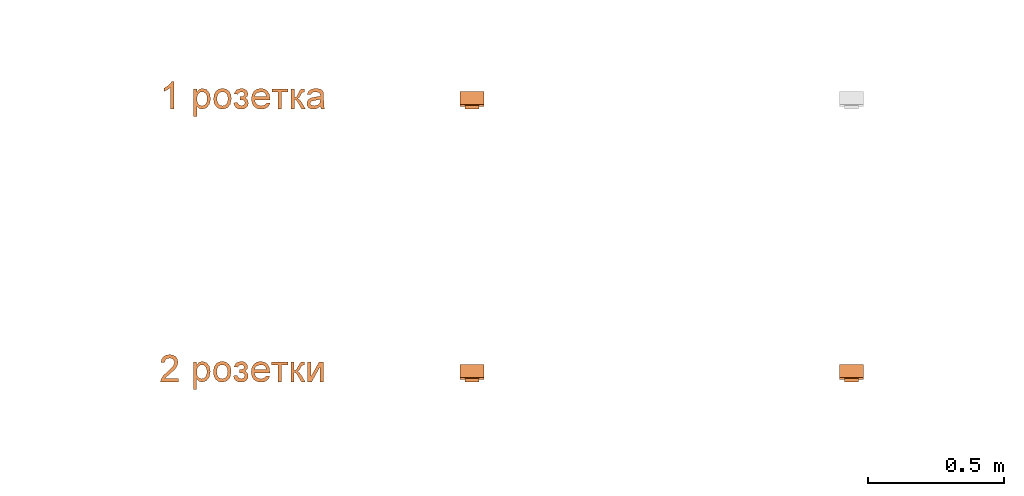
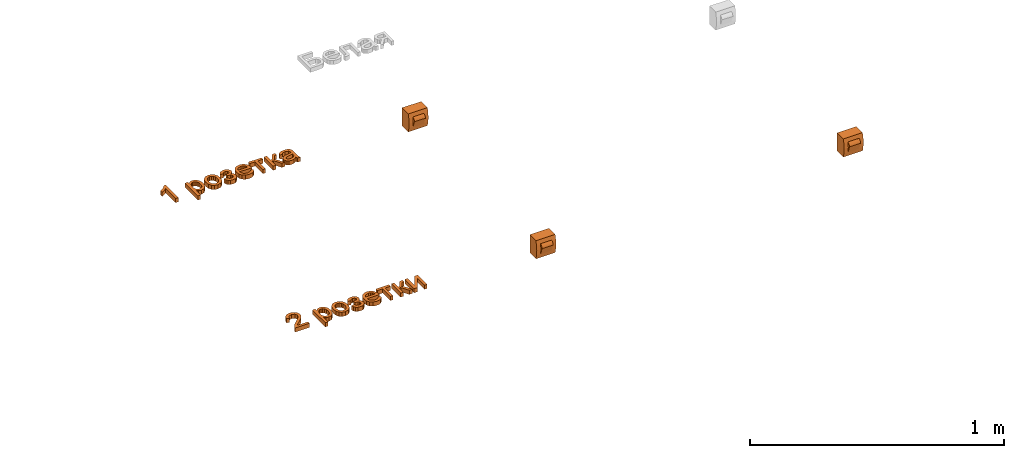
# One storey, part 64 of 87: 5 proxies.
"""IFC2X3 building model written with IfcOpenShell, lengths in millimetres."""

from ifc_helpers import new_model, entity, si_unit, converted_unit, derived_unit, direction, frame, frame_2d, origin, place, context, subcontext, project, spatial, polyline, circle_curve, parameter, trimmed, segment, composite_curve, outline, extrude, source, transform, mapped, material, type_object, type_shapes, element, save


model = new_model("IFC2X3")

# Units and contexts
model_context = context("Model", 3, precision=0.01, world=origin(), true_north=direction((6.12303176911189e-17, 1.0)))
body_context = subcontext(model_context, "Body", "Model", "MODEL_VIEW")
ifc_project = project(units=[si_unit("LENGTHUNIT", "METRE", prefix="MILLI"), si_unit("AREAUNIT", "SQUARE_METRE"), si_unit("VOLUMEUNIT", "CUBIC_METRE"), converted_unit("PLANEANGLEUNIT", "DEGREE", entity("IfcRatioMeasure", 0.0174532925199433), si_unit("PLANEANGLEUNIT", "RADIAN"), dimensions=[0, 0, 0, 0, 0, 0, 0]), si_unit("MASSUNIT", "GRAM", prefix="KILO"), derived_unit("MASSDENSITYUNIT", [(si_unit("MASSUNIT", "GRAM", prefix="KILO"), 1), (si_unit("LENGTHUNIT", "METRE"), -3)]), si_unit("TIMEUNIT", "SECOND"), si_unit("FREQUENCYUNIT", "HERTZ"), si_unit("THERMODYNAMICTEMPERATUREUNIT", "DEGREE_CELSIUS"), derived_unit("THERMALTRANSMITTANCEUNIT", [(si_unit("MASSUNIT", "GRAM", prefix="KILO"), 1), (si_unit("THERMODYNAMICTEMPERATUREUNIT", "KELVIN"), -1), (si_unit("TIMEUNIT", "SECOND"), -3)]), derived_unit("VOLUMETRICFLOWRATEUNIT", [(si_unit("LENGTHUNIT", "METRE"), 3), (si_unit("TIMEUNIT", "SECOND"), -1)]), si_unit("ELECTRICCURRENTUNIT", "AMPERE"), si_unit("ELECTRICVOLTAGEUNIT", "VOLT"), si_unit("POWERUNIT", "WATT"), si_unit("FORCEUNIT", "NEWTON", prefix="KILO"), si_unit("ILLUMINANCEUNIT", "LUX"), si_unit("LUMINOUSFLUXUNIT", "LUMEN"), si_unit("LUMINOUSINTENSITYUNIT", "CANDELA"), derived_unit("USERDEFINED", [(si_unit("MASSUNIT", "GRAM", prefix="KILO"), -1), (si_unit("LENGTHUNIT", "METRE"), -2), (si_unit("TIMEUNIT", "SECOND"), 3), (si_unit("LUMINOUSFLUXUNIT", "LUMEN"), 1)]), derived_unit("LINEARVELOCITYUNIT", [(si_unit("LENGTHUNIT", "METRE"), 1), (si_unit("TIMEUNIT", "SECOND"), -1)]), si_unit("PRESSUREUNIT", "PASCAL"), derived_unit("USERDEFINED", [(si_unit("LENGTHUNIT", "METRE"), -2), (si_unit("MASSUNIT", "GRAM", prefix="KILO"), 1), (si_unit("TIMEUNIT", "SECOND"), -2)])], contexts=[model_context])

# Site, building, storey
site_placement = place(None, origin())
site = spatial("IfcSite", under=ifc_project, at=site_placement, Name="Default", CompositionType="ELEMENT")
building_placement = place(site_placement, origin())
building = spatial("IfcBuilding", under=site, at=building_placement, Name="Наименование здания", CompositionType="ELEMENT")
storey_placement = place(building_placement, origin())
storey = spatial("IfcBuildingStorey", under=building, at=storey_placement, Name="Этаж 01", CompositionType="ELEMENT", Elevation=0.0)

# Proxies
ifc_material_1 = material(Name="DKC_Пластик_Коричневый")
building_element_proxy_type_1 = type_object("IfcBuildingElementProxyType", Name="Коричневая", PredefinedType="NOTDEFINED", material=ifc_material_1)
shared_shape_1 = source(origin(), body_context, "Body", "SweptSolid", [
    extrude(outline(composite_curve([segment(trimmed(circle_curve(frame_2d((6.58148347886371, 5.82942830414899), x_axis=(1.0, 0.0)), 18.452960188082), [parameter(108.397599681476)], [parameter(174.983430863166)], True, "PARAMETER"), True, "CONTINUOUS"), segment(polyline([(-11.8007917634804, 7.44302571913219), (0.75755790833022, -27.060756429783)]), True, "CONTINUOUS"), segment(polyline([(0.75755790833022, -27.060756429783), (5.1428379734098, -27.0607564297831)]), True, "CONTINUOUS"), segment(polyline([(5.1428379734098, -27.0607564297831), (5.14283797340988, 23.339243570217)]), True, "CONTINUOUS"), segment(polyline([(5.14283797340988, 23.339243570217), (0.757557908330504, 23.339243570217)]), True, "CONTINUOUS")], self_intersect=False)), frame((-25.2, -53.8992082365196, 1.86075642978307), z_axis=(1.0, 0.0, 0.0), x_axis=(0.0, 1.0, 0.0)), (0.0, 0.0, 1.0), 50.4),
    extrude(outline(composite_curve([segment(polyline([(-43.5500000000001, -24.3781851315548), (43.5500000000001, -24.3781851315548)]), True, "CONTINUOUS"), segment(polyline([(43.5500000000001, -24.3781851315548), (43.5499999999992, 24.3781851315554)]), True, "CONTINUOUS"), segment(trimmed(circle_curve(frame_2d((0.0, -117.269759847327), x_axis=(0.0, -1.0)), 148.191574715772), [parameter(162.90982899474)], [parameter(197.09017100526)], True, "PARAMETER"), True, "CONTINUOUS"), segment(polyline([(-43.5500000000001, 24.3781851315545), (-43.5500000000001, -24.3781851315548)]), True, "CONTINUOUS")], self_intersect=False)), frame((-43.85, -24.3781851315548, 0.0), z_axis=(1.0, 0.0, 0.0), x_axis=(0.0, 0.0, 1.0)), (0.0, 0.0, 1.0), 87.7),
])
type_shapes(building_element_proxy_type_1, [shared_shape_1])
proxy_1_placement = place(storey_placement, frame((61127.9064877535, -880.031651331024, 0.0)))
element("IfcBuildingElementProxy", 1, at=proxy_1_placement, inside=storey, type_object=building_element_proxy_type_1, material=ifc_material_1, Name="КНС_КоробкаВСбореСРозеткойRJ-45_ILF_DKC:Коричневая", ObjectType="Коричневая", context=body_context, shape_type="MappedRepresentation", body=[
    mapped(shared_shape_1, transform((0.0, 0.0, 0.0), scale=1.0)),
])
ifc_material_2 = material(Name="DKC_Пластик_Белый")
building_element_proxy_type_2 = type_object("IfcBuildingElementProxyType", Name="Белая", PredefinedType="NOTDEFINED", material=ifc_material_2)
shared_shape_2 = source(origin(), body_context, "Body", "SweptSolid", [
    extrude(outline(composite_curve([segment(trimmed(circle_curve(frame_2d((6.58148347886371, 5.82942830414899), x_axis=(1.0, 0.0)), 18.452960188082), [parameter(108.397599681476)], [parameter(174.983430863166)], True, "PARAMETER"), True, "CONTINUOUS"), segment(polyline([(-11.8007917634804, 7.44302571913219), (0.75755790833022, -27.060756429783)]), True, "CONTINUOUS"), segment(polyline([(0.75755790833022, -27.060756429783), (5.1428379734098, -27.0607564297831)]), True, "CONTINUOUS"), segment(polyline([(5.1428379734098, -27.0607564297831), (5.14283797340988, 23.339243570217)]), True, "CONTINUOUS"), segment(polyline([(5.14283797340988, 23.339243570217), (0.757557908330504, 23.339243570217)]), True, "CONTINUOUS")], self_intersect=False)), frame((-25.2, -53.8992082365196, 1.86075642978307), z_axis=(1.0, 0.0, 0.0), x_axis=(0.0, 1.0, 0.0)), (0.0, 0.0, 1.0), 50.4),
    extrude(outline(composite_curve([segment(polyline([(-43.5500000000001, -24.3781851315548), (43.5500000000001, -24.3781851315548)]), True, "CONTINUOUS"), segment(polyline([(43.5500000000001, -24.3781851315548), (43.5499999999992, 24.3781851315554)]), True, "CONTINUOUS"), segment(trimmed(circle_curve(frame_2d((0.0, -117.269759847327), x_axis=(0.0, -1.0)), 148.191574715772), [parameter(162.90982899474)], [parameter(197.09017100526)], True, "PARAMETER"), True, "CONTINUOUS"), segment(polyline([(-43.5500000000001, 24.3781851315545), (-43.5500000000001, -24.3781851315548)]), True, "CONTINUOUS")], self_intersect=False)), frame((-43.85, -24.3781851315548, 0.0), z_axis=(1.0, 0.0, 0.0), x_axis=(0.0, 0.0, 1.0)), (0.0, 0.0, 1.0), 87.7),
])
type_shapes(building_element_proxy_type_2, [shared_shape_2])
proxy_2_placement = place(storey_placement, frame((59727.9064877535, -880.03165133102, 0.0)))
element("IfcBuildingElementProxy", 2, at=proxy_2_placement, inside=storey, type_object=building_element_proxy_type_2, material=ifc_material_2, Name="КНС_КоробкаВСбореСРозеткойRJ-45_ILF_DKC:Белая", ObjectType="Белая", context=body_context, shape_type="MappedRepresentation", body=[
    mapped(shared_shape_2, transform((0.0, 0.0, 0.0), scale=1.0)),
])
building_element_proxy_type_3 = type_object("IfcBuildingElementProxyType", Name="Белая", PredefinedType="NOTDEFINED", material=ifc_material_2)
shared_shape_3 = source(origin(), body_context, "Body", "SweptSolid", [
    extrude(outline(composite_curve([segment(trimmed(circle_curve(frame_2d((6.58148347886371, 5.82942830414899), x_axis=(1.0, 0.0)), 18.452960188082), [parameter(108.397599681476)], [parameter(174.983430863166)], True, "PARAMETER"), True, "CONTINUOUS"), segment(polyline([(-11.8007917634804, 7.44302571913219), (0.75755790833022, -27.060756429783)]), True, "CONTINUOUS"), segment(polyline([(0.75755790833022, -27.060756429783), (5.1428379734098, -27.0607564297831)]), True, "CONTINUOUS"), segment(polyline([(5.1428379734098, -27.0607564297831), (5.14283797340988, 23.339243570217)]), True, "CONTINUOUS"), segment(polyline([(5.14283797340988, 23.339243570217), (0.757557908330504, 23.339243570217)]), True, "CONTINUOUS")], self_intersect=False)), frame((-25.2, -53.8992082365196, 1.86075642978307), z_axis=(1.0, 0.0, 0.0), x_axis=(0.0, 1.0, 0.0)), (0.0, 0.0, 1.0), 50.4),
    extrude(outline(composite_curve([segment(polyline([(-43.5500000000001, -24.3781851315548), (43.5500000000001, -24.3781851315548)]), True, "CONTINUOUS"), segment(polyline([(43.5500000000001, -24.3781851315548), (43.5499999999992, 24.3781851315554)]), True, "CONTINUOUS"), segment(trimmed(circle_curve(frame_2d((0.0, -117.269759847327), x_axis=(0.0, -1.0)), 148.191574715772), [parameter(162.90982899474)], [parameter(197.09017100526)], True, "PARAMETER"), True, "CONTINUOUS"), segment(polyline([(-43.5500000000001, 24.3781851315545), (-43.5500000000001, -24.3781851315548)]), True, "CONTINUOUS")], self_intersect=False)), frame((-43.85, -24.3781851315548, 0.0), z_axis=(1.0, 0.0, 0.0), x_axis=(0.0, 0.0, 1.0)), (0.0, 0.0, 1.0), 87.7),
])
type_shapes(building_element_proxy_type_3, [shared_shape_3])
proxy_3_placement = place(storey_placement, frame((59727.9064877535, 127.135593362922, 0.0)))
element("IfcBuildingElementProxy", 3, at=proxy_3_placement, inside=storey, type_object=building_element_proxy_type_3, material=ifc_material_2, Name="КНС_КоробкаВСбореСРозеткойRJ-45_ILF_DKC:Белая", ObjectType="Белая", context=body_context, shape_type="MappedRepresentation", body=[
    mapped(shared_shape_3, transform((0.0, 0.0, 0.0), scale=1.0)),
])
proxy_4_placement = place(storey_placement, origin())
element("IfcBuildingElementProxy", 4, at=proxy_4_placement, inside=storey, Name="Текст модели:100 мм Arial", ObjectType="Текст модели:100 мм Arial", context=body_context, shape_type="SweptSolid", body=[
    extrude(outline(polyline([(-63.8793021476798, -16.918484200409), (36.5770080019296, -16.918484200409), (36.5770080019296, -8.825080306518), (23.2106288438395, 2.34626961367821), (11.4629304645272, 20.7526321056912), (-0.40739524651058, 20.7526321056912), (5.9324378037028, 7.53340574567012), (14.4059864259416, -4.36144543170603), (-63.8793021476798, -4.36144543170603), (-63.8793021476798, -16.918484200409)])), frame((58611.1812144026, 126.433607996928, 0.0), z_axis=(0.0, 0.0, 1.0), x_axis=(0.0, 1.0, 0.0)), (0.0, 0.0, 1.0), 20.0),
    extrude(outline(polyline([(-28.8983569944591, -61.2335493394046), (-16.3413182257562, -61.2335493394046), (-16.3413182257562, -23.1700255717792), (-8.38280439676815, -31.3247431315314), (2.54329085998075, -34.5498419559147), (18.4235303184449, -29.7305878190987), (29.9259740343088, -15.8736993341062), (33.8868368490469, 4.47017499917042), (30.3796951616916, 23.8207679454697), (19.9808974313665, 37.5059781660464), (4.06386977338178, 42.36202050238), (-7.65930313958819, 38.8916670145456), (-16.3413182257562, 28.4806065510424), (-16.3413182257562, 40.7923906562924), (-28.8983569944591, 40.7923906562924), (-28.8983569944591, -61.2335493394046)]), holes=[polyline([(-16.3413182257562, 3.31747808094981), (-14.8912500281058, 14.7064915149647), (-10.5410454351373, 23.0236902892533), (-4.30851130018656, 28.1096588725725), (2.78854552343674, 29.8049817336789), (9.85801119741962, 28.2108264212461), (15.8606190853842, 23.4283604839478), (19.9625033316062, 15.4453211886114), (21.329798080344, 4.24944580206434), (19.9287808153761, -7.43080754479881), (15.7257290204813, -15.5916564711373), (9.56063991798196, -20.3925165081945), (2.27351073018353, -21.9928031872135), (-4.89712249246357, -20.447698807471), (-10.908927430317, -15.8123856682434), (-14.9832205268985, -7.93971097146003), (-16.3413182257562, 3.31747808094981)])]), frame((58729.2010285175, 95.5345179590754, 0.0)), (0.0, 0.0, 1.0), 20.0),
    extrude(outline(polyline([(-2.34029740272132, -31.698490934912), (14.273181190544, -31.698490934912), (27.1869525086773, -26.5873672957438), (35.990959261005, -17.1811275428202), (40.2751441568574, -4.2957792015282), (38.1491713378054, 13.1690451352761), (27.2514955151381, 26.6485362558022), (5.67797919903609, 33.7446283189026), (-10.1280544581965, 33.6081083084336), (-22.8059382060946, 28.3900569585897), (-31.6389568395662, 18.975453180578), (-35.9103951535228, 6.24927588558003), (-35.5406401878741, -5.9710903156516), (-30.8535887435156, -16.7835237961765), (-19.5870121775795, -26.5692340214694), (-2.34029740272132, -31.698490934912)]), holes=[polyline([(-0.642949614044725, -19.2566729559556), (-11.6948097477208, -16.259966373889), (-19.0989004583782, -10.8341828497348), (-22.9822632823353, -3.67356758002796), (-23.4719397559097, 4.52763423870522), (-20.7783225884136, 12.2046648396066), (-15.0781786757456, 18.0357050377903), (-6.5660093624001, 21.2863283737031), (4.56368400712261, 21.2221083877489), (15.8675929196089, 18.1905150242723), (23.3961896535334, 12.7474982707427), (27.3267847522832, 5.5927250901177), (27.8366887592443, -2.57413755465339), (25.1317228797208, -10.3331599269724), (19.4311586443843, -16.1672368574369), (10.8134498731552, -19.3753979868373), (-0.642949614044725, -19.2566729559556)])]), frame((58805.7952861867, 101.468454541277, 0.0), z_axis=(0.0, 0.0, 1.0), x_axis=(0.137105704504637, -0.990556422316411, 0.0)), (0.0, 0.0, 1.0), 20.0),
    extrude(outline(polyline([(-8.2613755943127, 2.83660129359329), (-7.88483383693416, -9.71479061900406), (2.03370750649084, -9.90796438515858), (7.11297634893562, -12.3687236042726), (9.62999620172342, -17.7525843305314), (6.67000046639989, -24.1840695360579), (-1.38556621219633, -26.7935088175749), (-9.8523625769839, -24.6920086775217), (-15.4941151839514, -17.7947491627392), (-29.5673633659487, -19.7872826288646), (-19.6703947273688, -34.801149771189), (-2.28377519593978, -39.3831432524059), (8.16179590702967, -37.5147754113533), (15.9646493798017, -32.6156876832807), (20.761052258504, -25.6475814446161), (22.1872715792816, -17.5721580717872), (19.5816320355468, -9.84772015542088), (12.285400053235, -4.03062803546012), (20.3489339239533, 4.03842158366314), (22.7692443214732, 15.3732845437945), (20.7423600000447, 24.5596715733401), (15.2735873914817, 31.7228208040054), (6.73732323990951, 36.2421492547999), (-4.49203571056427, 37.4970739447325), (-15.384413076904, 35.6981126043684), (-23.6206511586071, 31.0344554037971), (-29.2007499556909, 23.5061023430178), (-32.124709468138, 13.1130534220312), (-17.957325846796, 11.9677389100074), (-12.5724845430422, 21.404081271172), (-2.91428652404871, 24.9817182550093), (6.34861619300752, 22.1066650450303), (10.24285713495, 14.16325191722), (8.17310319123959, 7.50084071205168), (3.44966140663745, 3.82588141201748), (-5.80772556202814, 2.83660129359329), (-8.2613755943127, 2.83660129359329)])), frame((58879.5649254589, 98.5995881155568, 0.0), z_axis=(0.0, 0.0, -1.0), x_axis=(0.999550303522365, 0.0299865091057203, 0.0)), (0.0, 0.0, -1.0), 20.0),
    extrude(outline(polyline([(-8.10128238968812, -20.3751729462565), (-15.53522149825, -30.3140016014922), (-5.78400372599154, -33.5775071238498), (4.12185089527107, -33.3132173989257), (13.877616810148, -29.4480778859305), (23.1785684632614, -21.9090340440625), (31.6380426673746, -9.59237957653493), (34.1620486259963, 3.74135328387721), (30.604050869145, 17.2442201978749), (20.8175139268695, 30.0682768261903), (7.27698270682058, 39.7846728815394), (-6.66179525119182, 43.1117813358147), (-19.9642596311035, 40.4221234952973), (-31.5958501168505, 32.0882206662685), (-39.2435519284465, 20.5090048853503), (-41.3106827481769, 7.34319797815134), (-37.4373707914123, -6.34962495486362), (-27.2637442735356, -19.5098888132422), (-24.7804584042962, -21.8106804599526), (14.4643272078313, 18.7422646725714), (19.7071986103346, 10.6437992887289), (21.1614672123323, 2.21005051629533), (19.1472085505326, -5.98136753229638), (13.984498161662, -13.3528407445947), (3.53684605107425, -20.3751729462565), (-8.10128238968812, -20.3751729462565)]), holes=[polyline([(5.44081225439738, 27.4746984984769), (-25.1227061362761, -4.10760383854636), (-29.8038819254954, 7.41909510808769), (-27.8851342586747, 15.7498710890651), (-22.5382240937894, 23.3910349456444), (-8.40970331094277, 31.2368652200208), (-1.08072680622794, 30.9147288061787), (5.44081225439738, 27.4746984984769)])]), frame((58949.8564039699, 92.8768566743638, 0.0), z_axis=(0.0, 0.0, -1.0), x_axis=(-0.695421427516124, -0.718602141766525, 0.0)), (0.0, 0.0, -1.0), 20.0),
    extrude(outline(polyline([(-24.7216700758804, -29.8229670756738), (-12.1646313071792, -29.8229670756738), (-12.1646313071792, -6.27851938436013), (49.050932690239, -6.27851938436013), (49.050932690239, 6.2785193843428), (-12.1646313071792, 6.2785193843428), (-12.1646313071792, 29.8229670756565), (-24.7216700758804, 29.8229670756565), (-24.7216700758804, -29.8229670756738)])), frame((59018.9375302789, 111.605238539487, 0.0), z_axis=(0.0, 0.0, 1.0), x_axis=(0.0, -1.0, 0.0)), (0.0, 0.0, 1.0), 20.0),
    extrude(outline(polyline([(-30.3295712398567, -29.5353037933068), (43.4430315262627, -29.5353037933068), (43.4430315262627, -16.9782650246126), (8.9111749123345, -16.9782650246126), (11.2288314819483, -10.2337617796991), (20.8060260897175, -3.61188586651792), (43.4430315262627, 9.55828956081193), (43.4430315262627, 23.832110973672), (20.3155167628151, 10.3921554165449), (10.0209522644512, 2.61758258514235), (5.13425309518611, -5.30414304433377), (0.756457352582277, 1.79597946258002), (-8.18307513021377, 6.86048826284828), (-16.448157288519, 11.1769703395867), (-17.7725324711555, 17.3083369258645), (-17.6989560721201, 20.6928512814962), (-30.3295712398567, 20.6928512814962), (-30.3295712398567, 18.2893555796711), (-29.373078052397, 9.10456843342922), (-25.6819953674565, 4.0523223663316), (-14.3389671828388, -1.67437402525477), (-1.19331722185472, -8.56603006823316), (1.06302568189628, -16.9782650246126), (-30.3295712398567, -16.9782650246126), (-30.3295712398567, -29.5353037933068)])), frame((59089.2832100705, 105.997337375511, 0.0), z_axis=(0.0, 0.0, 1.0), x_axis=(0.0, -1.0, 0.0)), (0.0, 0.0, 1.0), 20.0),
    extrude(outline(polyline([(32.0508237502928, 7.88266535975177), (41.9780345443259, 7.88266535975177), (45.9489188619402, 19.7953183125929), (35.1414436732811, 20.7608946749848), (14.2438893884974, 27.0545912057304), (-0.577126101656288, 31.994929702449), (-11.1945882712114, 34.8877809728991), (-20.4974705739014, 33.9299602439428), (-28.5323068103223, 27.5470739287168), (-35.4619652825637, 13.8157249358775), (-38.3044049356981, -2.6998964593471), (-34.9462156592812, -15.3493345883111), (-25.0306383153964, -24.3807697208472), (-19.5706723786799, -12.964477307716), (-25.7868125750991, -4.50695904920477), (-24.0611841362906, 8.3092251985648), (-16.227994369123, 20.3304570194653), (-6.33956174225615, 20.6794605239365), (-3.71040200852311, 19.7255176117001), (-6.50243004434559, -2.30048133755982), (-8.1466243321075, -13.2049019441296), (-7.01817966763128, -22.8490321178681), (-2.17478658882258, -31.1204151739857), (6.48825595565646, -36.5416029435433), (15.0010331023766, -37.7020395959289), (22.9495879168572, -35.3200906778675), (29.6378522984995, -29.3899394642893), (34.3697581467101, -19.9057692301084), (36.2737661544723, -6.36055543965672), (32.0508237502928, 7.88266535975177)]), holes=[polyline([(8.22551784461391, 15.8244339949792), (11.5759514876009, 14.6300664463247), (20.1614376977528, 9.67421668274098), (24.4696920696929, -0.396473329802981), (23.3024692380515, -13.3987927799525), (17.2491973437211, -22.9498553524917), (9.62153186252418, -24.34974718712), (5.58084684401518, -21.1932043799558), (3.98706417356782, -15.5044472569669), (5.47226797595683, -4.61166010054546), (8.22551784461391, 15.8244339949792)])]), frame((59150.4388522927, 99.8854484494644, 0.0), z_axis=(0.0, 0.0, 1.0), x_axis=(0.316227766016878, -0.948683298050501, 0.0)), (0.0, 0.0, 1.0), 20.0),
])
proxy_5_placement = place(storey_placement, origin())
element("IfcBuildingElementProxy", 5, at=proxy_5_placement, inside=storey, Name="Текст модели:100 мм Arial", ObjectType="Текст модели:100 мм Arial", context=body_context, shape_type="SweptSolid", body=[
    extrude(outline(polyline([(-32.3858783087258, -45.1669477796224), (-32.3858783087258, -57.7239865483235), (33.5385752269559, -57.7239865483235), (32.1896745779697, -49.0664969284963), (24.5622545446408, -35.736905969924), (8.84143061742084, -21.1810416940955), (-12.8390816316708, -0.260818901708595), (-18.2592096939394, 13.9639515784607), (-13.1456499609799, 25.4786580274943), (0.208466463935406, 30.1752848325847), (14.1266686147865, 25.5890226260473), (19.4119066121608, 12.9093565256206), (31.9689453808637, 14.4789863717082), (28.9247218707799, 26.6252235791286), (22.3426998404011, 35.4973110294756), (12.5662358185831, 40.9235704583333), (-0.0613136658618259, 42.7323236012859), (-12.7808336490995, 40.721235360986), (-22.5389035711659, 34.6879706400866), (-28.7469122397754, 25.6748617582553), (-30.8162484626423, 14.7242410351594), (-28.584431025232, 2.81712712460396), (-21.1654774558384, -9.49465698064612), (-3.17604789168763, -26.6992716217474), (11.2694517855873, -38.7780637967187), (16.9348345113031, -45.1669477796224), (-32.3858783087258, -45.1669477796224)])), frame((58612.1949336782, -886.88895229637, 0.0), z_axis=(0.0, 0.0, -1.0), x_axis=(-1.0, 0.0, 0.0)), (0.0, 0.0, -1.0), 20.0),
    extrude(outline(polyline([(-28.8983569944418, -61.2335493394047), (-16.3413182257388, -61.2335493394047), (-16.3413182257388, -23.1700255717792), (-8.38280439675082, -31.3247431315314), (2.54329085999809, -34.5498419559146), (18.4235303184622, -29.7305878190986), (29.9259740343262, -15.8736993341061), (33.8868368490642, 4.4701749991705), (30.3796951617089, 23.8207679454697), (19.9808974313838, 37.5059781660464), (4.0638697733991, 42.3620205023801), (-7.65930313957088, 38.8916670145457), (-16.3413182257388, 28.4806065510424), (-16.3413182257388, 40.7923906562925), (-28.8983569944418, 40.7923906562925), (-28.8983569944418, -61.2335493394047)]), holes=[polyline([(-16.3413182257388, 3.31747808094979), (-14.8912500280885, 14.7064915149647), (-10.54104543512, 23.0236902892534), (-4.30851130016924, 28.1096588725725), (2.78854552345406, 29.8049817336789), (9.85801119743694, 28.2108264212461), (15.8606190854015, 23.4283604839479), (19.9625033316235, 15.4453211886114), (21.3297980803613, 4.24944580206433), (19.9287808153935, -7.43080754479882), (15.7257290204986, -15.5916564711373), (9.56063991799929, -20.3925165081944), (2.27351073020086, -21.9928031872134), (-4.89712249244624, -20.447698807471), (-10.9089274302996, -15.8123856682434), (-14.9832205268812, -7.93971097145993), (-16.3413182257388, 3.31747808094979)])]), frame((58728.4162135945, -911.632726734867, 0.0)), (0.0, 0.0, 1.0), 20.0),
    extrude(outline(polyline([(-2.34029740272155, -31.698490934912), (14.2731811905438, -31.6984909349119), (27.1869525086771, -26.5873672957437), (35.9909592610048, -17.1811275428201), (40.2751441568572, -4.29577920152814), (38.1491713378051, 13.1690451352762), (27.2514955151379, 26.6485362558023), (5.67797919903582, 33.7446283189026), (-10.1280544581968, 33.6081083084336), (-22.8059382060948, 28.3900569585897), (-31.6389568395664, 18.975453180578), (-35.910395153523, 6.24927588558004), (-35.5406401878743, -5.97109031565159), (-30.8535887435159, -16.7835237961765), (-19.5870121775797, -26.5692340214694), (-2.34029740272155, -31.698490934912)]), holes=[polyline([(-0.642949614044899, -19.2566729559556), (-11.6948097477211, -16.259966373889), (-19.0989004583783, -10.8341828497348), (-22.9822632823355, -3.67356758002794), (-23.4719397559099, 4.52763423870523), (-20.7783225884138, 12.2046648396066), (-15.0781786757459, 18.0357050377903), (-6.56600936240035, 21.2863283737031), (4.56368400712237, 21.2221083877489), (15.8675929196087, 18.1905150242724), (23.3961896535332, 12.7474982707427), (27.326784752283, 5.59272509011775), (27.8366887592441, -2.57413755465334), (25.1317228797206, -10.3331599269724), (19.431158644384, -16.1672368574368), (10.813449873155, -19.3753979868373), (-0.642949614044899, -19.2566729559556)])]), frame((58805.0104712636, -905.698790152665, 0.0), z_axis=(0.0, 0.0, 1.0), x_axis=(0.137105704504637, -0.990556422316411, 0.0)), (0.0, 0.0, 1.0), 20.0),
    extrude(outline(polyline([(-8.26137559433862, 2.83660129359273), (-7.88483383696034, -9.71479061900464), (2.03370750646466, -9.9079643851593), (7.11297634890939, -12.3687236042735), (9.62999620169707, -17.7525843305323), (6.67000046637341, -24.1840695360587), (-1.38556621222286, -26.7935088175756), (-9.85236257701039, -24.6920086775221), (-15.4941151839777, -17.7947491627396), (-29.5673633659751, -19.7872826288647), (-19.6703947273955, -34.8011497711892), (-2.28377519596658, -39.3831432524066), (8.16179590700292, -37.5147754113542), (15.964649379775, -32.6156876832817), (20.7610522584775, -25.6475814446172), (22.1872715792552, -17.5721580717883), (19.5816320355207, -9.84772015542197), (12.2854000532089, -4.03062803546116), (20.3489339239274, 4.03842158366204), (22.7692443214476, 15.3732845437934), (20.7423600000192, 24.5596715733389), (15.2735873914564, 31.7228208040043), (6.73732323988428, 36.242149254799), (-4.49203571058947, 37.4970739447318), (-15.3844130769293, 35.6981126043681), (-23.6206511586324, 31.0344554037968), (-29.2007499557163, 23.5061023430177), (-32.1247094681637, 13.1130534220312), (-17.9573258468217, 11.967738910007), (-12.5724845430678, 21.4040812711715), (-2.91428652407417, 24.9817182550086), (6.348616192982, 22.1066650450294), (10.2428571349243, 14.163251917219), (8.17310319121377, 7.50084071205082), (3.44966140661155, 3.82588141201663), (-5.80772556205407, 2.83660129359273), (-8.26137559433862, 2.83660129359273)])), frame((58878.7801105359, -908.567656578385, 0.0), z_axis=(0.0, 0.0, -1.0), x_axis=(0.999550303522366, 0.0299865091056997, 0.0)), (0.0, 0.0, -1.0), 20.0),
    extrude(outline(polyline([(-8.10128238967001, -20.3751729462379), (-15.535221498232, -30.3140016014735), (-5.78400372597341, -33.5775071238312), (4.12185089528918, -33.313217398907), (13.877616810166, -29.4480778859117), (23.1785684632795, -21.9090340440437), (31.6380426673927, -9.59237957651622), (34.1620486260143, 3.74135328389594), (30.604050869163, 17.2442201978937), (20.8175139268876, 30.068276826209), (7.2769827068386, 39.7846728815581), (-6.66179525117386, 43.1117813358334), (-19.9642596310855, 40.422123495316), (-31.5958501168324, 32.0882206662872), (-39.2435519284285, 20.5090048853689), (-41.3106827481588, 7.34319797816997), (-37.4373707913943, -6.34962495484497), (-27.2637442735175, -19.5098888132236), (-24.7804584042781, -21.810680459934), (14.4643272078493, 18.7422646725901), (19.7071986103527, 10.6437992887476), (21.1614672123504, 2.21005051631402), (19.1472085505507, -5.98136753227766), (13.98449816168, -13.352840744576), (3.53684605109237, -20.3751729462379), (-8.10128238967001, -20.3751729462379)]), holes=[polyline([(5.44081225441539, 27.4746984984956), (-25.122706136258, -4.10760383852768), (-29.8038819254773, 7.41909510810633), (-27.8851342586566, 15.7498710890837), (-22.5382240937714, 23.391034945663), (-8.40970331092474, 31.2368652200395), (-1.08072680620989, 30.9147288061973), (5.44081225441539, 27.4746984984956)])]), frame((58949.0715890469, -914.290388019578, 0.0), z_axis=(0.0, 0.0, -1.0), x_axis=(-0.695421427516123, -0.718602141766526, 0.0)), (0.0, 0.0, -1.0), 20.0),
    extrude(outline(polyline([(-24.7216700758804, -29.8229670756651), (-12.1646313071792, -29.8229670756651), (-12.1646313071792, -6.27851938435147), (49.0509326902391, -6.27851938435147), (49.0509326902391, 6.27851938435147), (-12.1646313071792, 6.27851938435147), (-12.1646313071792, 29.8229670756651), (-24.7216700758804, 29.8229670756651), (-24.7216700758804, -29.8229670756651)])), frame((59018.1527153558, -895.562006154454, 0.0), z_axis=(0.0, 0.0, 1.0), x_axis=(0.0, -1.0, 0.0)), (0.0, 0.0, 1.0), 20.0),
    extrude(outline(polyline([(-30.3295712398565, -29.5353037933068), (43.443031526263, -29.5353037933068), (43.443031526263, -16.9782650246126), (8.91117491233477, -16.9782650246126), (11.2288314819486, -10.2337617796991), (20.8060260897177, -3.61188586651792), (43.443031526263, 9.55828956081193), (43.443031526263, 23.832110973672), (20.3155167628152, 10.3921554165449), (10.0209522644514, 2.61758258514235), (5.13425309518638, -5.30414304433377), (0.756457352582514, 1.79597946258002), (-8.18307513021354, 6.86048826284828), (-16.4481572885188, 11.1769703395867), (-17.7725324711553, 17.3083369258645), (-17.6989560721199, 20.6928512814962), (-30.3295712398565, 20.6928512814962), (-30.3295712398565, 18.2893555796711), (-29.3730780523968, 9.10456843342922), (-25.6819953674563, 4.0523223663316), (-14.3389671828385, -1.67437402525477), (-1.19331722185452, -8.56603006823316), (1.06302568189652, -16.9782650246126), (-30.3295712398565, -16.9782650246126), (-30.3295712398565, -29.5353037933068)])), frame((59088.4983951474, -901.169907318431, 0.0), z_axis=(0.0, 0.0, 1.0), x_axis=(0.0, -1.0, 0.0)), (0.0, 0.0, 1.0), 20.0),
    extrude(outline(polyline([(-36.920637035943, -29.8425874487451), (36.8519657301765, -29.8425874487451), (36.8519657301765, -13.4105249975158), (-19.0660975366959, 17.2463079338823), (36.8519657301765, 17.2463079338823), (36.8519657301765, 29.8033467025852), (-36.920637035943, 29.8033467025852), (-36.920637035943, 13.5674879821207), (19.3407827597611, -17.2855486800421), (-36.920637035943, -17.2855486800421), (-36.920637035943, -29.8425874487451)])), frame((59150.0212428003, -907.760973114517, 0.0), z_axis=(0.0, 0.0, 1.0), x_axis=(0.0, -1.0, 0.0)), (0.0, 0.0, 1.0), 20.0),
])

save(model, "model.ifc")
